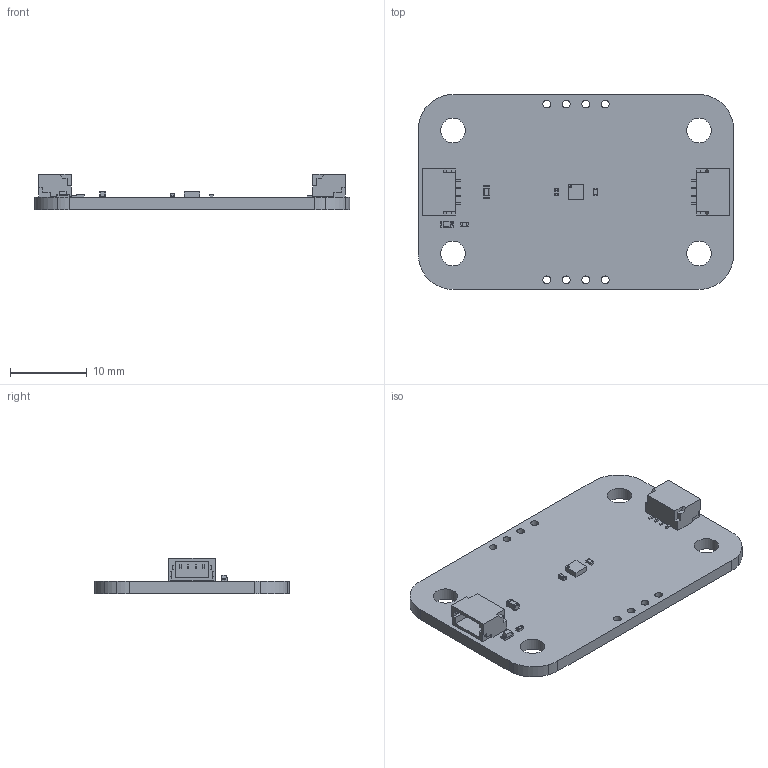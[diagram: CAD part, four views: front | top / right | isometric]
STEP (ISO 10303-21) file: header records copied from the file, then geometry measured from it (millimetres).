
FILE_DESCRIPTION(('Open CASCADE Model'),'2;1');
FILE_NAME('Open CASCADE Shape Model','2025-12-04T17:54:47',('Author'),( 'Open CASCADE'),'Open CASCADE STEP processor 7.5','Open CASCADE 7.5' ,'Unknown');
FILE_SCHEMA(('AUTOMOTIVE_DESIGN { 1 0 10303 214 1 1 1 1 }'));
Length unit declared in the file: millimetre
Products named in the file (20): PCB; Board; Open CASCADE STEP translator 7.5 2.1.1; U1; 5077684576; Open CASCADE STEP translator 7.5 11.1; Body; Open CASCADE STEP translator 7.5 11.2.1; R2; RES-0402; C2; CAP-0402; C1; CAP-0603; J1; SM04B-SRSS-TB_RGB12040119; J2; D1; HSMx-190; R1
Assembly tree (21 placements, depth 5):
  PCB
    Board
      Open CASCADE STEP translator 7.5 2.1.1
    U1
      5077684576
        Open CASCADE STEP translator 7.5 11.1
        Body
          Open CASCADE STEP translator 7.5 11.2.1
    R2
      RES-0402
    C2
      CAP-0402
    C1
      CAP-0603
    J1
      SM04B-SRSS-TB_RGB12040119
    J2
      SM04B-SRSS-TB_RGB12040119
    D1
      HSMx-190
    R1
      RES-0402
Bounding box: 41 x 25.36 x 4.58 mm (x, y, z)
Volume: 1673.3 mm3; surface area: 2632.5 mm2
Topology: 9 solids, 10 shells, 476 faces, 1230 edges, 765 vertices
Faces by surface type: plane 337, cylinder 99, sphere 20, bspline 16, torus 4
Full cylindrical faces by diameter (mm): 0.07 x1, 0.25 x1, 1 x8, 3.2 x4
Entity records: 11662 total; most frequent: CARTESIAN_POINT 2240, DIRECTION 1743, ORIENTED_EDGE 1719, EDGE_CURVE 860, LINE 627, VECTOR 627, AXIS2_PLACEMENT_3D 558, VERTEX_POINT 531
